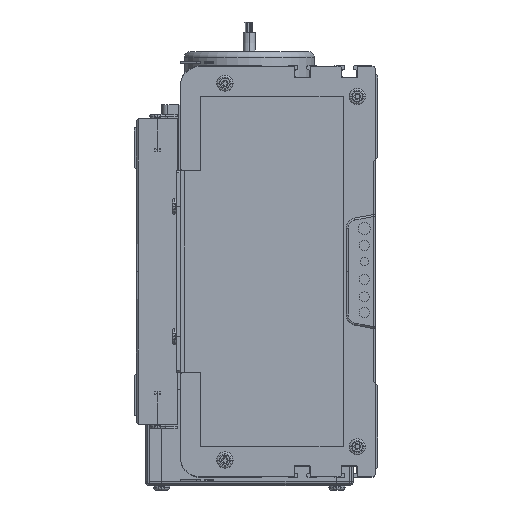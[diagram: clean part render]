
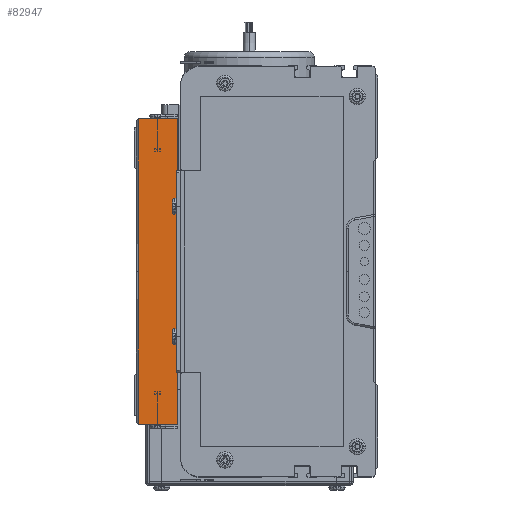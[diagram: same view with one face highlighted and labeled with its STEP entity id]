
A CAD part, left-side view. The second image highlights one B-rep face of the part: STEP entity #82947.
In plain terms, the highlighted planar face has unit normal (-1, 0, 0).
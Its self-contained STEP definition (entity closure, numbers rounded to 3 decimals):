
#243 = DIRECTION ( 'NONE',  ( 0., -1., 0. ) ) ;
#268 = VECTOR ( 'NONE', #243, 1000. ) ;
#270 = CARTESIAN_POINT ( 'NONE',  ( 0., 20., 75. ) ) ;
#271 = LINE ( 'NONE', #270, #268 ) ;
#51796 = CARTESIAN_POINT ( 'NONE',  ( 0., 19., -75. ) ) ;
#77357 = DIRECTION ( 'NONE',  ( 0., 0., -1. ) ) ;
#77359 = VECTOR ( 'NONE', #77357, 1000. ) ;
#77362 = CARTESIAN_POINT ( 'NONE',  ( 0., 19., 0. ) ) ;
#77367 = LINE ( 'NONE', #77362, #77359 ) ;
#79547 = AXIS2_PLACEMENT_3D ( 'NONE', #79617, #79615, #79613 ) ;
#79553 = PLANE ( 'NONE',  #79547 ) ;
#79555 = FACE_OUTER_BOUND ( 'NONE', #82966, .T. ) ;
#79603 = DIRECTION ( 'NONE',  ( 0., 0., -1. ) ) ;
#79604 = VECTOR ( 'NONE', #79603, 1000. ) ;
#79608 = CARTESIAN_POINT ( 'NONE',  ( 0., 19., 0. ) ) ;
#79613 = DIRECTION ( 'NONE',  ( 0., 0., -1. ) ) ;
#79615 = DIRECTION ( 'NONE',  ( 1., 0., 0. ) ) ;
#79617 = CARTESIAN_POINT ( 'NONE',  ( 0., 20., 0. ) ) ;
#79619 = CARTESIAN_POINT ( 'NONE',  ( 0., 19., 0. ) ) ;
#79620 = LINE ( 'NONE', #79619, #79604 ) ;
#79685 = DIRECTION ( 'NONE',  ( 0., -1., 0. ) ) ;
#79686 = VECTOR ( 'NONE', #79685, 1000. ) ;
#79687 = CARTESIAN_POINT ( 'NONE',  ( 0., 20., -75. ) ) ;
#79688 = LINE ( 'NONE', #79687, #79686 ) ;
#82765 = VERTEX_POINT ( 'NONE', #51796 ) ;
#82779 = ORIENTED_EDGE ( 'NONE', *, *, #82927, .T. ) ;
#82887 = ORIENTED_EDGE ( 'NONE', *, *, #82954, .T. ) ;
#82905 = ORIENTED_EDGE ( 'NONE', *, *, #125528, .F. ) ;
#82916 = ORIENTED_EDGE ( 'NONE', *, *, #125304, .T. ) ;
#82927 = EDGE_CURVE ( 'NONE', #125116, #82955, #77367, .T. ) ;
#82947 = ADVANCED_FACE ( 'NONE', ( #79555 ), #79553, .F. ) ;
#82950 = ORIENTED_EDGE ( 'NONE', *, *, #82967, .T. ) ;
#82954 = EDGE_CURVE ( 'NONE', #82955, #82765, #79620, .T. ) ;
#82955 = VERTEX_POINT ( 'NONE', #79608 ) ;
#82966 = EDGE_LOOP ( 'NONE', ( #82905, #82779, #82887, #82950, #82916 ) ) ;
#82967 = EDGE_CURVE ( 'NONE', #82765, #125159, #79688, .T. ) ;
#125116 = VERTEX_POINT ( 'NONE', #160859 ) ;
#125159 = VERTEX_POINT ( 'NONE', #160929 ) ;
#125304 = EDGE_CURVE ( 'NONE', #125159, #125413, #161609, .T. ) ;
#125413 = VERTEX_POINT ( 'NONE', #160768 ) ;
#125528 = EDGE_CURVE ( 'NONE', #125116, #125413, #271, .T. ) ;
#160768 = CARTESIAN_POINT ( 'NONE',  ( 0., 0., 75. ) ) ;
#160859 = CARTESIAN_POINT ( 'NONE',  ( 0., 19., 75. ) ) ;
#160929 = CARTESIAN_POINT ( 'NONE',  ( 0., 0., -75. ) ) ;
#161571 = DIRECTION ( 'NONE',  ( 0., 0., 1. ) ) ;
#161574 = VECTOR ( 'NONE', #161571, 1000. ) ;
#161578 = CARTESIAN_POINT ( 'NONE',  ( 0., 0., 0. ) ) ;
#161609 = LINE ( 'NONE', #161578, #161574 ) ;
